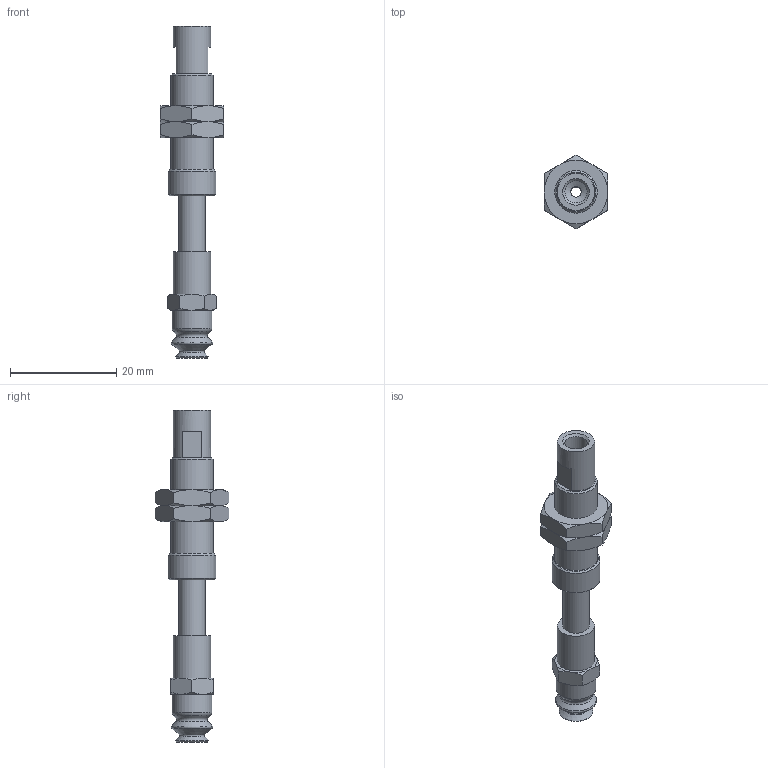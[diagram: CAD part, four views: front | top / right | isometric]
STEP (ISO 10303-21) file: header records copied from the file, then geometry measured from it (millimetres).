
FILE_DESCRIPTION(('STEP AP203'),'1');
FILE_NAME('-SPE.stp','2025-04-25T02:35:24',(' '),(' '),'Spatial InterOp 3D',' ',' ');
FILE_SCHEMA(('CONFIG_CONTROL_DESIGN'));
Length unit declared in the file: millimetre
Products named in the file (7): BNABPJTS-6-10-※-SPE; ZIG; BODY; NUT; PS-6-J-M- body; BPJG-6-_
Assembly tree (6 placements, depth 2):
  BNABPJTS-6-10-※-SPE
    ZIG
    BODY
    NUT
    NUT
    PS-6-J-M- body
    BPJG-6-_
Bounding box: 12 x 13.86 x 62.5 mm (x, y, z)
Volume: 2624.6 mm3; surface area: 3904.2 mm2
Topology: 6 solids, 6 shells, 131 faces, 275 edges, 165 vertices
Faces by surface type: cone 56, plane 43, cylinder 22, torus 10
Full cylindrical faces by diameter (mm): 2 x2, 3.64 x1, 4 x4, 4.2 x2, 5 x3, 5.2 x1, 6 x2, 7 x2, 7.25 x2, 7.5 x1, 8 x1, 9 x1
Entity records: 3492 total; most frequent: CARTESIAN_POINT 702, DIRECTION 520, ORIENTED_EDGE 414, AXIS2_PLACEMENT_3D 247, EDGE_CURVE 207, EDGE_LOOP 204, FACE_OUTER_BOUND 163, VERTEX_POINT 149
